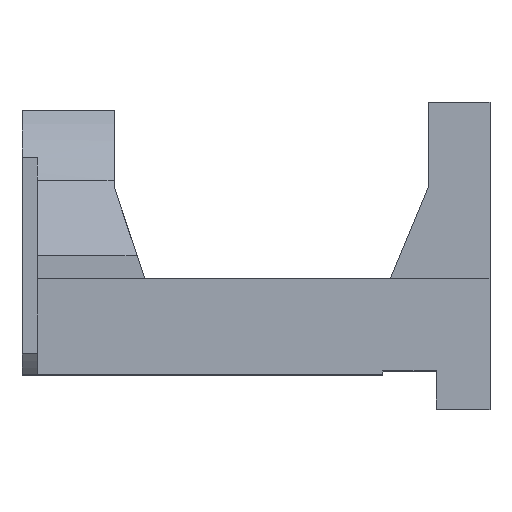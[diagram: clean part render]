
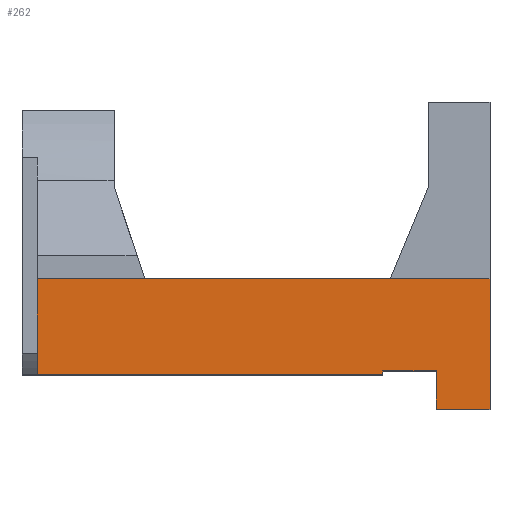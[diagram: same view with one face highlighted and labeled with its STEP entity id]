
A CAD part, top view. The second image highlights one B-rep face of the part: STEP entity #262.
In plain terms, the highlighted planar face has unit normal (0, 0, 1).
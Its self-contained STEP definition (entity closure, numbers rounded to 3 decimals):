
#88 = DIRECTION ( 'NONE',  ( -1., 0., 0. ) ) ;
#117 = ORIENTED_EDGE ( 'NONE', *, *, #2526, .T. ) ;
#166 = ORIENTED_EDGE ( 'NONE', *, *, #1122, .F. ) ;
#262 = ADVANCED_FACE ( 'NONE', ( #638 ), #2127, .F. ) ;
#284 = AXIS2_PLACEMENT_3D ( 'NONE', #2096, #1034, #88 ) ;
#317 = CARTESIAN_POINT ( 'NONE',  ( -63.941, -15.5, 26. ) ) ;
#404 = CARTESIAN_POINT ( 'NONE',  ( 0., -20., 26. ) ) ;
#455 = DIRECTION ( 'NONE',  ( -1., 0., 0. ) ) ;
#478 = LINE ( 'NONE', #3584, #2047 ) ;
#524 = VERTEX_POINT ( 'NONE', #404 ) ;
#638 = FACE_OUTER_BOUND ( 'NONE', #3390, .T. ) ;
#725 = ORIENTED_EDGE ( 'NONE', *, *, #2409, .T. ) ;
#755 = EDGE_CURVE ( 'NONE', #524, #3752, #2012, .T. ) ;
#783 = EDGE_CURVE ( 'NONE', #3468, #2548, #2702, .T. ) ;
#810 = LINE ( 'NONE', #317, #1602 ) ;
#942 = LINE ( 'NONE', #2757, #2502 ) ;
#1034 = DIRECTION ( 'NONE',  ( 0., 0., -1. ) ) ;
#1080 = DIRECTION ( 'NONE',  ( 0., -1., 0. ) ) ;
#1122 = EDGE_CURVE ( 'NONE', #3732, #3751, #810, .T. ) ;
#1133 = VECTOR ( 'NONE', #1835, 1000. ) ;
#1227 = VECTOR ( 'NONE', #1890, 1000. ) ;
#1296 = CARTESIAN_POINT ( 'NONE',  ( -59., -3., 26. ) ) ;
#1602 = VECTOR ( 'NONE', #455, 1000. ) ;
#1630 = CARTESIAN_POINT ( 'NONE',  ( -14., -15., 26. ) ) ;
#1835 = DIRECTION ( 'NONE',  ( 0., -1., 0. ) ) ;
#1841 = DIRECTION ( 'NONE',  ( 0., 1., 0. ) ) ;
#1890 = DIRECTION ( 'NONE',  ( 0., 1., 0. ) ) ;
#1920 = CARTESIAN_POINT ( 'NONE',  ( 0., -20., 26. ) ) ;
#1996 = VECTOR ( 'NONE', #3441, 1000. ) ;
#2012 = LINE ( 'NONE', #1920, #1227 ) ;
#2044 = EDGE_CURVE ( 'NONE', #3127, #3468, #942, .T. ) ;
#2047 = VECTOR ( 'NONE', #1080, 1000. ) ;
#2093 = LINE ( 'NONE', #3462, #1996 ) ;
#2096 = CARTESIAN_POINT ( 'NONE',  ( -59., -3., 26. ) ) ;
#2127 = PLANE ( 'NONE',  #284 ) ;
#2215 = CARTESIAN_POINT ( 'NONE',  ( -7., -20., 26. ) ) ;
#2217 = EDGE_CURVE ( 'NONE', #2925, #3751, #478, .T. ) ;
#2219 = LINE ( 'NONE', #3268, #2997 ) ;
#2325 = ORIENTED_EDGE ( 'NONE', *, *, #2217, .T. ) ;
#2346 = CARTESIAN_POINT ( 'NONE',  ( 0., -20., 26. ) ) ;
#2409 = EDGE_CURVE ( 'NONE', #3752, #2925, #2093, .T. ) ;
#2489 = DIRECTION ( 'NONE',  ( 1., 0., 0. ) ) ;
#2500 = LINE ( 'NONE', #2346, #3171 ) ;
#2502 = VECTOR ( 'NONE', #3202, 1000. ) ;
#2526 = EDGE_CURVE ( 'NONE', #2548, #524, #2500, .T. ) ;
#2548 = VERTEX_POINT ( 'NONE', #2215 ) ;
#2702 = LINE ( 'NONE', #3350, #1133 ) ;
#2719 = CARTESIAN_POINT ( 'NONE',  ( -7., -15., 26. ) ) ;
#2757 = CARTESIAN_POINT ( 'NONE',  ( -59., -15., 26. ) ) ;
#2925 = VERTEX_POINT ( 'NONE', #1296 ) ;
#2997 = VECTOR ( 'NONE', #1841, 1000. ) ;
#3127 = VERTEX_POINT ( 'NONE', #1630 ) ;
#3128 = CARTESIAN_POINT ( 'NONE',  ( -59., -15.5, 26. ) ) ;
#3171 = VECTOR ( 'NONE', #2489, 1000. ) ;
#3202 = DIRECTION ( 'NONE',  ( 1., 0., 0. ) ) ;
#3268 = CARTESIAN_POINT ( 'NONE',  ( -14., -3., 26. ) ) ;
#3272 = ORIENTED_EDGE ( 'NONE', *, *, #783, .T. ) ;
#3350 = CARTESIAN_POINT ( 'NONE',  ( -7., -3., 26. ) ) ;
#3354 = ORIENTED_EDGE ( 'NONE', *, *, #3451, .T. ) ;
#3390 = EDGE_LOOP ( 'NONE', ( #2325, #166, #3354, #3396, #3272, #117, #3652, #725 ) ) ;
#3393 = CARTESIAN_POINT ( 'NONE',  ( -14., -15.5, 26. ) ) ;
#3396 = ORIENTED_EDGE ( 'NONE', *, *, #2044, .T. ) ;
#3405 = CARTESIAN_POINT ( 'NONE',  ( 0., -3., 26. ) ) ;
#3441 = DIRECTION ( 'NONE',  ( -1., 0., 0. ) ) ;
#3451 = EDGE_CURVE ( 'NONE', #3732, #3127, #2219, .T. ) ;
#3462 = CARTESIAN_POINT ( 'NONE',  ( -59., -3., 26. ) ) ;
#3468 = VERTEX_POINT ( 'NONE', #2719 ) ;
#3584 = CARTESIAN_POINT ( 'NONE',  ( -59., -17., 26. ) ) ;
#3652 = ORIENTED_EDGE ( 'NONE', *, *, #755, .T. ) ;
#3732 = VERTEX_POINT ( 'NONE', #3393 ) ;
#3751 = VERTEX_POINT ( 'NONE', #3128 ) ;
#3752 = VERTEX_POINT ( 'NONE', #3405 ) ;
